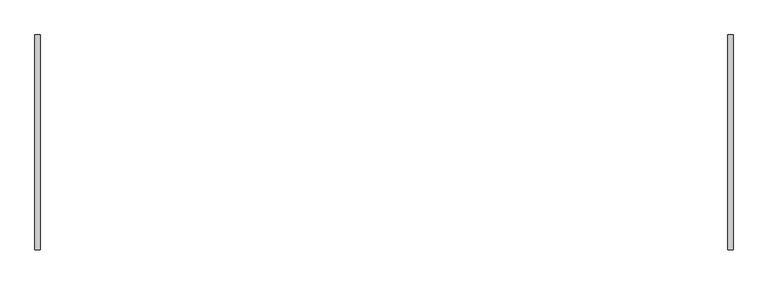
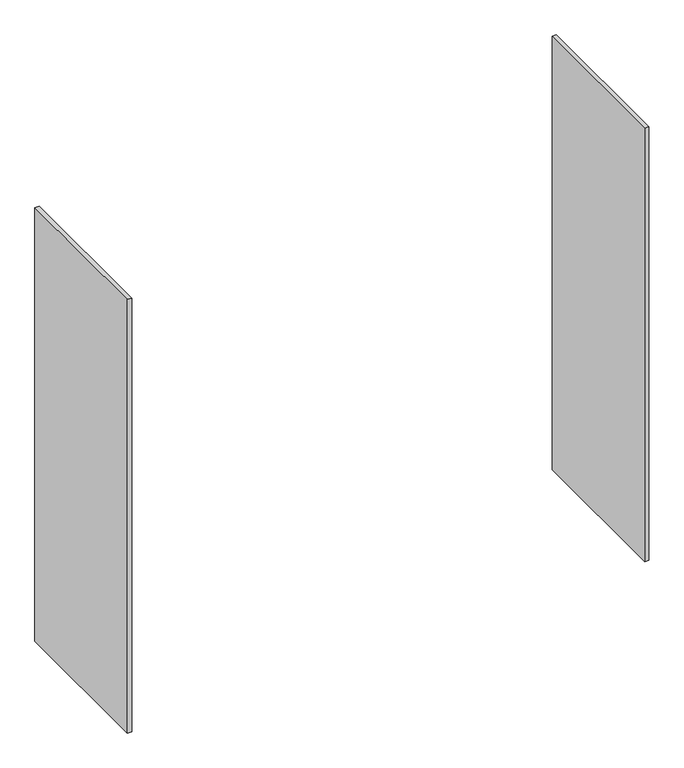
"""IFC4 building model written with IfcOpenShell, lengths in millimetres: furniture geometry, Lockers-Bay-Duracube-Duraloc : LBM-1900h x 500d x 400w with 470h Bench."""

from ifc_helpers import new_model, si_unit, frame, origin, place, context, project, spatial, polyline, outline, extrude, source, transform, mapped, element, save


def furniture_7293fc8f(model_context):
    return source(origin(), model_context, "Body", "SweptSolid", [
        extrude(outline(polyline([(1613.0, 250.0), (1626.0, 250.0), (1626.0, -250.0), (1613.0, -250.0), (1613.0, 250.0)])), frame((0.0, 0.0, 470.0), z_axis=(0.0, 0.0, 1.0), x_axis=(1.0, 0.0, 0.0)), (0.0, 0.0, 1.0), 1430.0),
        extrude(outline(polyline([(0.0, 250.0), (13.0, 250.0), (13.0, -250.0), (0.0, -250.0), (0.0, 250.0)])), frame((0.0, 0.0, 470.0), z_axis=(0.0, 0.0, 1.0), x_axis=(1.0, 0.0, 0.0)), (0.0, 0.0, 1.0), 1430.0),
    ])


if __name__ == "__main__":
    model = new_model("IFC4")
    model_context = context("Model", 3, world=origin())
    ifc_project = project(units=[si_unit("LENGTHUNIT", "METRE", prefix="MILLI")], contexts=[model_context])
    site = spatial("IfcSite", under=ifc_project)
    building = spatial("IfcBuilding", under=site)
    placement = place(None, origin())
    furniture_shape = furniture_7293fc8f(model_context)
    element("IfcFurniture", 1, ObjectType="Lockers-Bay-Duracube-Duraloc : LBM-1900h x 500d x 400w with 470h Bench", at=placement, inside=building, context=model_context, shape_type="MappedRepresentation", body=[
        mapped(furniture_shape, transform((0.0, 0.0, 0.0), x_axis=(1.0, 0.0, 0.0), y_axis=(0.0, 1.0, 0.0), z_axis=(0.0, 0.0, 1.0))),
    ])
    save(model, "model.ifc")
